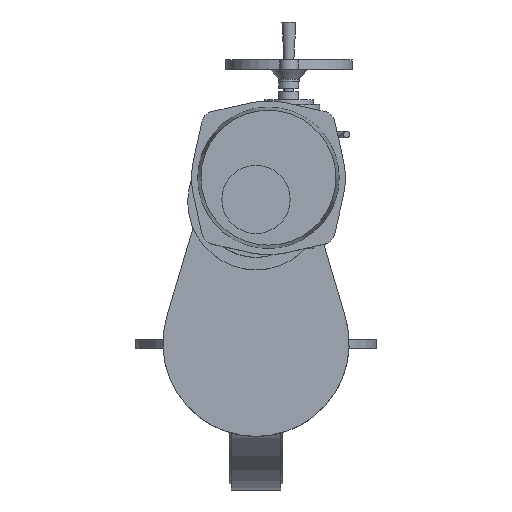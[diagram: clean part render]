
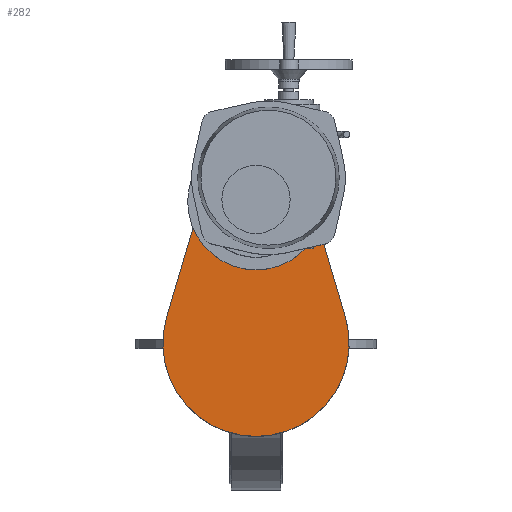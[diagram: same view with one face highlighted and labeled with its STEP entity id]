
A CAD part, top view. The second image highlights one B-rep face of the part: STEP entity #282.
In plain terms, the highlighted planar face has unit normal (0, 0, 1).
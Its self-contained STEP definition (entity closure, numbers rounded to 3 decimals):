
#282=ADVANCED_FACE('',(#2134),#2136,.F.);
#2134=FACE_BOUND('',#2135,.T.);
#2135=EDGE_LOOP('',(#3642,#3643,#3644,#3645,#3646));
#2136=PLANE('',#2137);
#2137=AXIS2_PLACEMENT_3D('',#2138,#2139,#2140);
#2138=CARTESIAN_POINT('',(20.,266.,500.));
#2139=DIRECTION('',(0.,0.,-1.));
#2140=DIRECTION('',(0.,1.,0.));
#3642=ORIENTED_EDGE('',*,*,#4431,.T.);
#3643=ORIENTED_EDGE('',*,*,#4432,.T.);
#3644=ORIENTED_EDGE('',*,*,#4433,.F.);
#3645=ORIENTED_EDGE('',*,*,#4397,.F.);
#3646=ORIENTED_EDGE('',*,*,#4434,.F.);
#4397=EDGE_CURVE('',#4839,#4840,#4841,.T.);
#4431=EDGE_CURVE('',#4907,#4908,#4909,.F.);
#4432=EDGE_CURVE('',#4908,#4910,#4911,.F.);
#4433=EDGE_CURVE('',#4840,#4910,#4912,.T.);
#4434=EDGE_CURVE('',#4907,#4839,#4913,.T.);
#4839=VERTEX_POINT('',#5667);
#4840=VERTEX_POINT('',#5668);
#4841=CIRCLE('',#5669,150.);
#4907=VERTEX_POINT('',#5955);
#4908=VERTEX_POINT('',#5956);
#4909=CIRCLE('',#5957,85.);
#4910=VERTEX_POINT('',#5961);
#4911=CIRCLE('',#5962,85.);
#4912=LINE('',#5966,#5967);
#4913=LINE('',#5969,#5970);
#5667=CARTESIAN_POINT('',(143.775,42.763,500.));
#5668=CARTESIAN_POINT('',(-143.775,42.763,500.));
#5669=AXIS2_PLACEMENT_3D('',#5670,#5671,#5672);
#5670=CARTESIAN_POINT('',(0.,0.,500.));
#5671=DIRECTION('',(0.,0.,-1.));
#5672=DIRECTION('',(0.959,0.285,0.));
#5955=CARTESIAN_POINT('',(81.473,252.232,500.));
#5956=CARTESIAN_POINT('',(0.,143.,500.));
#5957=AXIS2_PLACEMENT_3D('',#5958,#5959,#5960);
#5958=CARTESIAN_POINT('',(0.,228.,500.));
#5959=DIRECTION('',(0.,0.,1.));
#5960=DIRECTION('',(0.,-1.,0.));
#5961=CARTESIAN_POINT('',(-81.473,252.232,500.));
#5962=AXIS2_PLACEMENT_3D('',#5963,#5964,#5965);
#5963=CARTESIAN_POINT('',(0.,228.,500.));
#5964=DIRECTION('',(0.,0.,1.));
#5965=DIRECTION('',(-0.959,0.285,0.));
#5966=CARTESIAN_POINT('',(-143.775,42.763,500.));
#5967=VECTOR('',#5968,1.);
#5968=DIRECTION('',(0.285,0.959,0.));
#5969=CARTESIAN_POINT('',(81.473,252.232,500.));
#5970=VECTOR('',#5971,1.);
#5971=DIRECTION('',(0.285,-0.959,0.));
